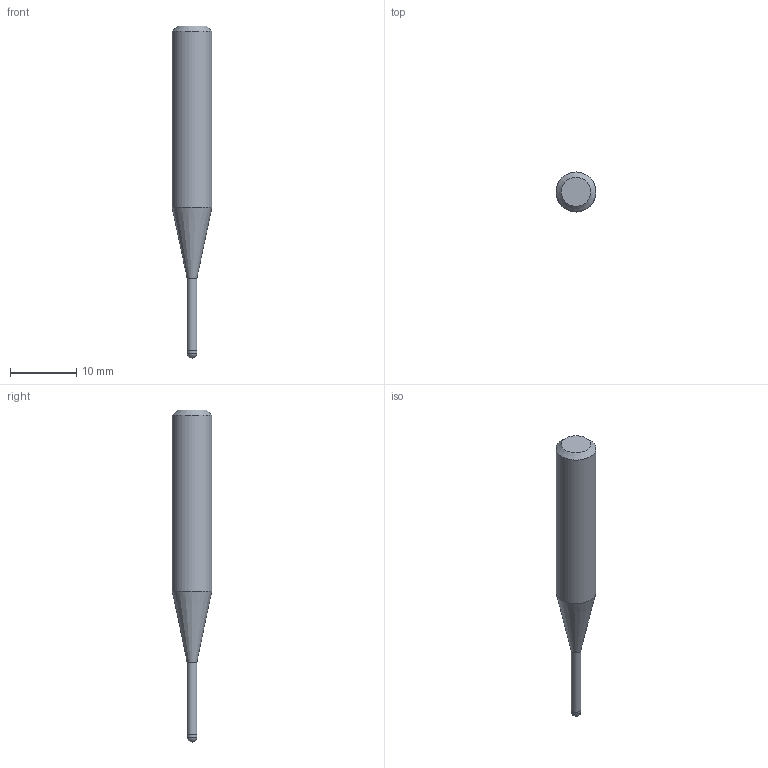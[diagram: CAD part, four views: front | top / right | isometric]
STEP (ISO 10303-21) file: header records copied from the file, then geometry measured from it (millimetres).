
FILE_DESCRIPTION((''),'2;1');
FILE_NAME('C:\Users\nsx150\AppData\Local\Temp\Mastercam 2021\3SYKECWX22\TEMP.step','2021-04-22T10:03:23',(''),(''),'STEP Write','Mastercam 2021 ... CNC Software, Inc.','');
FILE_SCHEMA(('AUTOMOTIVE_DESIGN'));
Length unit declared in the file: millimetre
Products named in the file (1): None
Bounding box: 6 x 6 x 50 mm (x, y, z)
Volume: 917 mm3; surface area: 719.4 mm2
Topology: 2 solids, 2 shells, 9 faces, 14 edges, 8 vertices
Faces by surface type: plane 3, cylinder 3, cone 2, sphere 1
Full cylindrical faces by diameter (mm): 1.45 x1, 1.5 x1, 6 x1
Entity records: 211 total; most frequent: DIRECTION 36, CARTESIAN_POINT 25, AXIS2_PLACEMENT_3D 18, ORIENTED_EDGE 14, EDGE_LOOP 14, STYLED_ITEM 12, ADVANCED_FACE 9, FACE_BOUND 8
